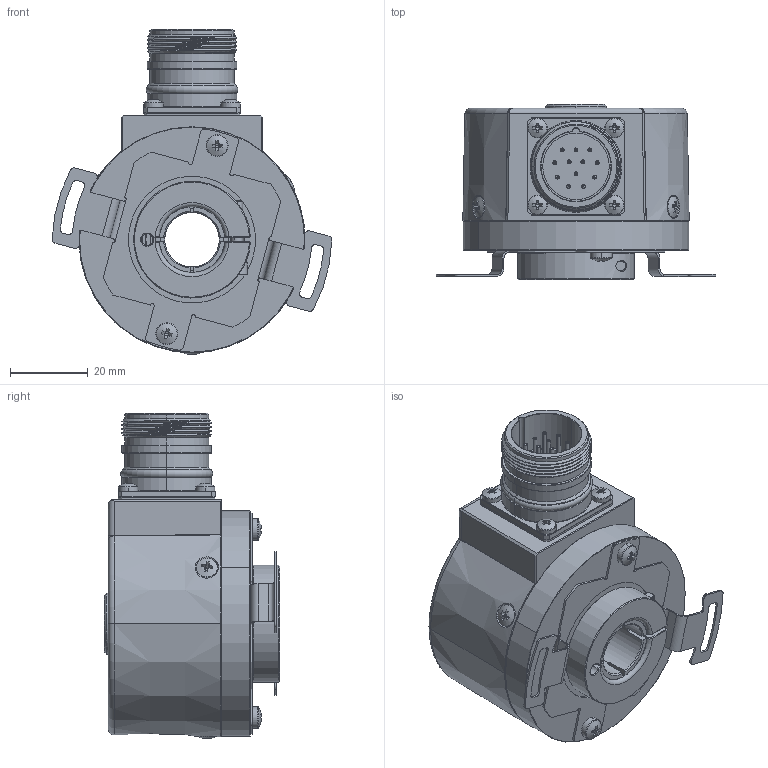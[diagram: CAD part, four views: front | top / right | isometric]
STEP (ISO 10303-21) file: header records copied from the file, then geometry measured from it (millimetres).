
FILE_DESCRIPTION (( 'STEP AP214' ), '1' );
FILE_NAME ('SASL8x20.STEP', '2026-01-15T14:56:03', ( '' ), ( '' ), 'SwSTEP 2.0', 'SolidWorks 2019', '' );
FILE_SCHEMA (( 'AUTOMOTIVE_DESIGN' ));
Length unit declared in the file: millimetre
Products named in the file (1): SASL8x20
Bounding box: 71.88 x 45 x 83.53 mm (x, y, z)
Volume: 63942.2 mm3; surface area: 36491.1 mm2
Topology: 1 solids, 21 shells, 1215 faces, 2790 edges, 1663 vertices
Faces by surface type: plane 403, cylinder 307, cone 256, bspline 90, sphere 80, torus 79
Entity records: 55657 total; most frequent: CARTESIAN_POINT 15386, DIRECTION 5787, ORIENTED_EDGE 5508, EDGE_CURVE 2754, AXIS2_PLACEMENT_3D 2392, VERTEX_POINT 1663, EDGE_LOOP 1341, CIRCLE 1266
